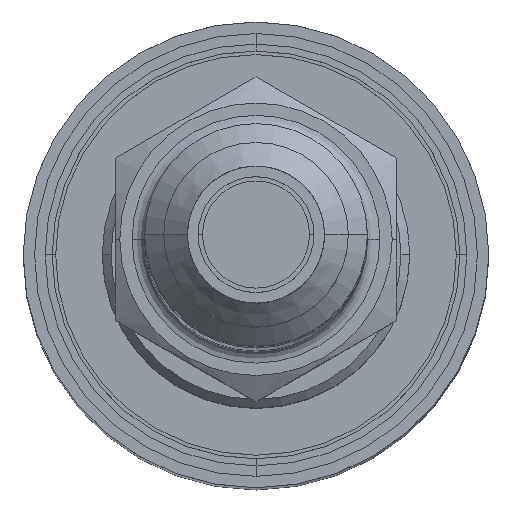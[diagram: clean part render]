
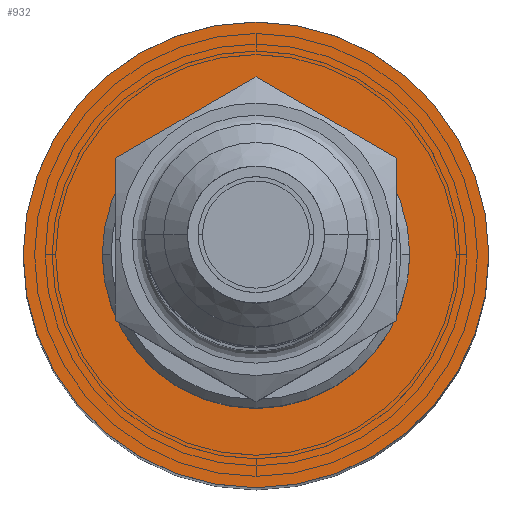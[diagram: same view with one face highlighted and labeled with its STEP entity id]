
A CAD part, top view. The second image highlights one B-rep face of the part: STEP entity #932.
In plain terms, the highlighted planar face has unit normal (0, 0, 1) as drawn and (1, 0, 0) by its records, which use the part's own axes.
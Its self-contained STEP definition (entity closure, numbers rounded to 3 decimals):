
#74 = EDGE_LOOP ( 'NONE', ( #81, #83 ) ) ;
#79 = EDGE_CURVE ( 'NONE', #23706, #27040, #499, .T. ) ;
#81 = ORIENTED_EDGE ( 'NONE', *, *, #34489, .T. ) ;
#83 = ORIENTED_EDGE ( 'NONE', *, *, #849, .T. ) ;
#478 = DIRECTION ( 'NONE',  ( 0., 0., 1. ) ) ;
#479 = DIRECTION ( 'NONE',  ( 1., 0., 0. ) ) ;
#480 = AXIS2_PLACEMENT_3D ( 'NONE', #487, #479, #478 ) ;
#487 = CARTESIAN_POINT ( 'NONE',  ( 245.72, 288.504, 0. ) ) ;
#499 = CIRCLE ( 'NONE', #480, 13.25 ) ;
#809 = ORIENTED_EDGE ( 'NONE', *, *, #27066, .T. ) ;
#849 = EDGE_CURVE ( 'NONE', #23628, #34482, #907, .T. ) ;
#856 = ORIENTED_EDGE ( 'NONE', *, *, #79, .T. ) ;
#866 = AXIS2_PLACEMENT_3D ( 'NONE', #906, #894, #893 ) ;
#869 = EDGE_LOOP ( 'NONE', ( #856, #809 ) ) ;
#893 = DIRECTION ( 'NONE',  ( 0., 0., -1. ) ) ;
#894 = DIRECTION ( 'NONE',  ( 1., 0., 0. ) ) ;
#897 = PLANE ( 'NONE',  #866 ) ;
#898 = FACE_OUTER_BOUND ( 'NONE', #869, .T. ) ;
#899 = FACE_BOUND ( 'NONE', #74, .T. ) ;
#901 = DIRECTION ( 'NONE',  ( 0., 0., -1. ) ) ;
#902 = DIRECTION ( 'NONE',  ( -1., 0., 0. ) ) ;
#903 = AXIS2_PLACEMENT_3D ( 'NONE', #911, #902, #901 ) ;
#906 = CARTESIAN_POINT ( 'NONE',  ( 245.72, 277.504, 0. ) ) ;
#907 = CIRCLE ( 'NONE', #903, 7.65 ) ;
#911 = CARTESIAN_POINT ( 'NONE',  ( 245.72, 288.504, 0. ) ) ;
#932 = ADVANCED_FACE ( 'NONE', ( #899, #898 ), #897, .T. ) ;
#3744 = CARTESIAN_POINT ( 'NONE',  ( 245.72, 288.504, 7.65 ) ) ;
#4113 = CARTESIAN_POINT ( 'NONE',  ( 245.72, 288.504, 13.25 ) ) ;
#4943 = CIRCLE ( 'NONE', #4978, 13.25 ) ;
#4967 = DIRECTION ( 'NONE',  ( 0., 0., 1. ) ) ;
#4968 = DIRECTION ( 'NONE',  ( 1., 0., 0. ) ) ;
#4970 = CARTESIAN_POINT ( 'NONE',  ( 245.72, 288.504, 0. ) ) ;
#4978 = AXIS2_PLACEMENT_3D ( 'NONE', #4970, #4968, #4967 ) ;
#5005 = CARTESIAN_POINT ( 'NONE',  ( 245.72, 288.504, -13.25 ) ) ;
#5531 = CARTESIAN_POINT ( 'NONE',  ( 245.72, 288.504, -7.65 ) ) ;
#5573 = DIRECTION ( 'NONE',  ( -1., 0., 0. ) ) ;
#5580 = AXIS2_PLACEMENT_3D ( 'NONE', #5607, #5573, #5704 ) ;
#5607 = CARTESIAN_POINT ( 'NONE',  ( 245.72, 288.504, 0. ) ) ;
#5615 = CIRCLE ( 'NONE', #5580, 7.65 ) ;
#5704 = DIRECTION ( 'NONE',  ( 0., 0., -1. ) ) ;
#23628 = VERTEX_POINT ( 'NONE', #3744 ) ;
#23706 = VERTEX_POINT ( 'NONE', #4113 ) ;
#27040 = VERTEX_POINT ( 'NONE', #5005 ) ;
#27066 = EDGE_CURVE ( 'NONE', #27040, #23706, #4943, .T. ) ;
#34482 = VERTEX_POINT ( 'NONE', #5531 ) ;
#34489 = EDGE_CURVE ( 'NONE', #34482, #23628, #5615, .T. ) ;
